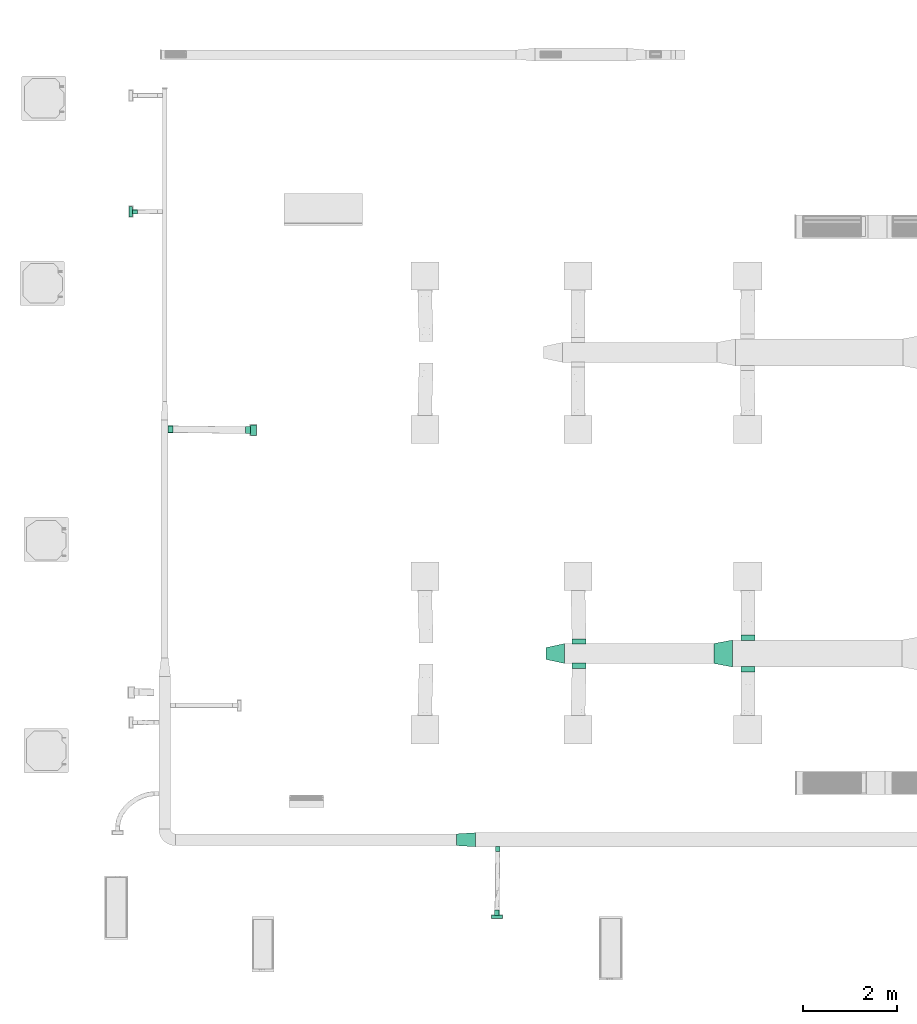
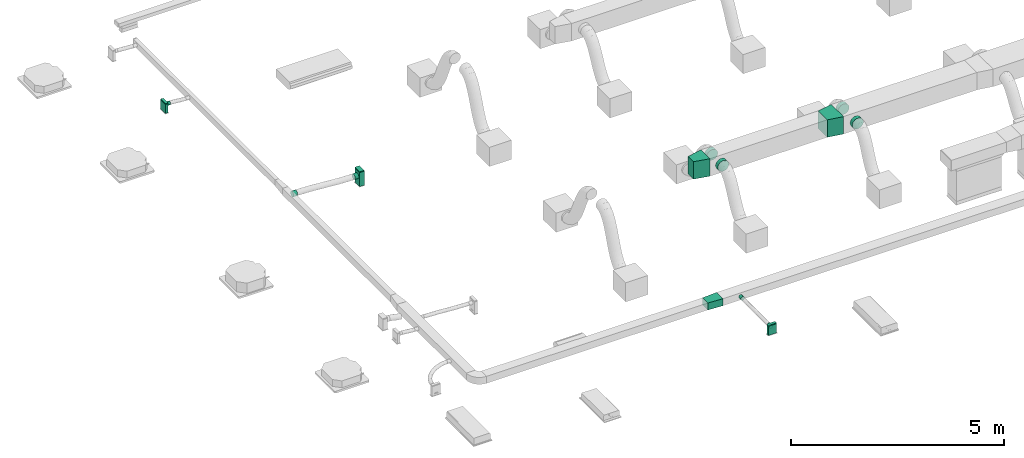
# One storey, part 23 of 60: 15 flow fittings, 3 flow segments.
"""IFC2X3 building model written with IfcOpenShell, lengths in millimetres."""

from ifc_helpers import new_model, entity, si_unit, converted_unit, derived_unit, direction, frame, origin, origin_2d_with_axis, place, context, subcontext, project, spatial, polyline, rectangle, outline, extrude, faceted_brep, source, transform, mapped, material, type_object, type_shapes, element, save


model = new_model("IFC2X3")

# Units and contexts
model_context = context("Model", 3, precision=0.01, world=origin(), true_north=direction((6.123233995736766e-17, 1.0)))
body_context = subcontext(model_context, "Body", "Model", "MODEL_VIEW")
ifc_project = project(units=[si_unit("LENGTHUNIT", "METRE", prefix="MILLI"), converted_unit("PLANEANGLEUNIT", "DEGREE", entity("IfcPlaneAngleMeasure", 0.017453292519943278), si_unit("PLANEANGLEUNIT", "RADIAN"), dimensions=[0, 0, 0, 0, 0, 0, 0]), si_unit("AREAUNIT", "SQUARE_METRE"), derived_unit("THERMALTRANSMITTANCEUNIT", [(si_unit("MASSUNIT", "GRAM", prefix="KILO"), 1), (si_unit("THERMODYNAMICTEMPERATUREUNIT", "KELVIN"), -1), (si_unit("TIMEUNIT", "SECOND"), -3)])], contexts=[model_context])

# Site, building, storey
site_placement = place(None, origin())
site = spatial("IfcSite", under=ifc_project, at=site_placement, Name="Default", CompositionType="ELEMENT")
building_placement = place(site_placement, origin())
building = spatial("IfcBuilding", under=site, at=building_placement, Name="Praça Pedro II, 1301 - Centro (Sul), Teresina - PI, 64001-100", CompositionType="ELEMENT")
storey_placement = place(building_placement, frame((0.0, 0.0, 6040.0)))
storey = spatial("IfcBuildingStorey", under=building, at=storey_placement, Name="2PAV", CompositionType="ELEMENT", Elevation=6040.0)

# Flow fittings
ifc_material = material(Name="<Unnamed>")
duct_fitting_type_1 = type_object("IfcDuctFittingType", Name="M_Encaixe de duto redondo:Padrão", PredefinedType="NOTDEFINED", material=ifc_material)
shared_shape_1 = source(origin(), body_context, "Body", "Brep", [
    faceted_brep([(101.6000000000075, 0.0, -150.0), (101.6000000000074, 38.82285676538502, -144.88887394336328), (101.60000000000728, 75.0, -129.90381056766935), (101.6000000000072, 106.06601717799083, -106.06601717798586), (101.60000000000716, 129.90381056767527, -75.0), (101.6000000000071, 144.8888739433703, -38.82285676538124), (101.60000000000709, 150.0, 0.0), (101.6000000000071, 144.88887394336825, 38.82285676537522), (101.60000000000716, 129.90381056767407, 75.0), (101.6000000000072, 106.06601717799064, 106.0660171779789), (101.60000000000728, 75.0, 129.90381056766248), (101.6000000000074, 38.82285676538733, 144.88887394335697), (101.6000000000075, 0.0, 150.0), (101.6000000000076, -38.82285676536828, 144.88887394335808), (101.6000000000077, -75.0, 129.90381056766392), (101.60000000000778, -106.0660171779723, 106.06601717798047), (101.60000000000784, -129.90381056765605, 75.0), (101.60000000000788, -144.88887394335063, 38.822856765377), (101.6000000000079, -150.0, 0.0), (101.60000000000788, -144.88887394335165, -38.8228567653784), (101.60000000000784, -129.90381056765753, -75.0), (101.60000000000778, -106.0660171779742, -106.06601717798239), (101.6000000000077, -75.0, -129.90381056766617), (101.6000000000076, -38.82285676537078, -144.88887394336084), (0.0, 0.0, 150.0), (-6.095999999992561, 0.0, 150.0), (-6.095999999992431, -38.82285676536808, 144.88887394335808), (0.0, -38.82285676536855, 144.88887394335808), (-6.09599999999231, -75.0, 129.90381056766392), (0.0, -75.0, 129.90381056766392), (-6.095999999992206, -106.06601717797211, 106.06601717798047), (0.0, -106.06601717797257, 106.06601717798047), (0.0, -129.9038105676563, 75.0), (-6.095999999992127, -129.90381056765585, 75.0), (-6.0959999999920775, -144.88887394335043, 38.822856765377), (0.0, -144.88887394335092, 38.82285676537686), (-6.09599999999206, -150.0, 0.0), (0.0, -150.0, 0.0), (-6.0959999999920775, -144.88887394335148, -38.8228567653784), (0.0, -144.88887394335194, -38.8228567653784), (-6.095999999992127, -129.90381056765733, -75.0), (0.0, -129.90381056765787, -75.0), (-6.095999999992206, -106.066017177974, -106.06601717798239), (0.0, -106.06601717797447, -106.06601717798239), (0.0, -75.0, -129.90381056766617), (-6.09599999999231, -75.0, -129.90381056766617), (-6.095999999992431, -38.822856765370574, -144.88887394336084), (0.0, -38.82285676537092, -144.88887394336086), (-6.095999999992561, 0.0, -150.0), (0.0, 0.0, -150.0), (0.0, 75.0, -129.90381056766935), (0.0, 38.82285676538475, -144.88887394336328), (-6.095999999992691, 38.82285676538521, -144.88887394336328), (-6.095999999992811, 75.0, -129.90381056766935), (-6.095999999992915, 106.06601717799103, -106.06601717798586), (0.0, 106.06601717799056, -106.06601717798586), (0.0, 129.903810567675, -75.0), (-6.095999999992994, 129.9038105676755, -75.0), (-6.095999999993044, 144.8888739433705, -38.82285676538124), (0.0, 144.88887394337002, -38.82285676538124), (-6.0959999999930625, 150.0, 0.0), (0.0, 150.0, 0.0), (-6.095999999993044, 144.88887394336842, 38.82285676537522), (0.0, 144.88887394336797, 38.82285676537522), (-6.095999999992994, 129.90381056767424, 75.0), (0.0, 129.9038105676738, 75.0), (-6.095999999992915, 106.06601717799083, 106.0660171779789), (0.0, 106.06601717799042, 106.06601717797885), (0.0, 75.0, 129.90381056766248), (-6.095999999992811, 75.0, 129.90381056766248), (-6.095999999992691, 38.82285676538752, 144.88887394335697), (0.0, 38.82285676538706, 144.88887394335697)], [[[0, 1, 2, 3, 4, 5, 6, 7, 8, 9, 10, 11, 12, 13, 14, 15, 16, 17, 18, 19, 20, 21, 22, 23]], [[13, 12, 24, 25, 26, 27]], [[14, 13, 27, 26, 28, 29]], [[29, 28, 30, 31, 15, 14]], [[17, 16, 32, 33, 34, 35]], [[18, 17, 35, 34, 36, 37]], [[31, 30, 33, 32, 16, 15]], [[19, 18, 37, 36, 38, 39]], [[20, 19, 39, 38, 40, 41]], [[41, 40, 42, 43, 21, 20]], [[23, 22, 44, 45, 46, 47]], [[0, 23, 47, 46, 48, 49]], [[43, 42, 45, 44, 22, 21]], [[50, 2, 1, 51, 52, 53]], [[51, 1, 0, 49, 48, 52]], [[50, 53, 54, 55, 3, 2]], [[5, 4, 56, 57, 58, 59]], [[6, 5, 59, 58, 60, 61]], [[55, 54, 57, 56, 4, 3]], [[7, 6, 61, 60, 62, 63]], [[8, 7, 63, 62, 64, 65]], [[65, 64, 66, 67, 9, 8]], [[11, 10, 68, 69, 70, 71]], [[12, 11, 71, 70, 25, 24]], [[67, 66, 69, 68, 10, 9]], [[46, 45, 42, 40, 38, 36, 34, 33, 30, 28, 26, 25, 70, 69, 66, 64, 62, 60, 58, 57, 54, 53, 52, 48]]]),
])
type_shapes(duct_fitting_type_1, [shared_shape_1])
flow_fitting_1_placement = place(storey_placement, frame((22556.794440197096, -64369.908035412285, 3480.0), z_axis=(0.0, 0.0, -1.0), x_axis=(0.0, 1.0, 0.0)))
element("IfcFlowFitting", 1, at=flow_fitting_1_placement, inside=storey, type_object=duct_fitting_type_1, material=ifc_material, Name="M_Encaixe de duto redondo:Padrão", ObjectType="M_Encaixe de duto redondo:Padrão", context=body_context, shape_type="MappedRepresentation", body=[
    mapped(shared_shape_1, transform((0.0, 0.0, 0.0), scale=1.0)),
])
duct_fitting_type_2 = type_object("IfcDuctFittingType", Name="M_Encaixe de duto redondo:Padrão", PredefinedType="NOTDEFINED", material=ifc_material)
shared_shape_2 = source(origin(), body_context, "Body", "Brep", [
    faceted_brep([(101.6000000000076, 38.82285676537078, -144.88887394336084), (101.6000000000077, 75.0, -129.90381056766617), (101.60000000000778, 106.0660171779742, -106.06601717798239), (101.60000000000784, 129.90381056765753, -75.0), (101.60000000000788, 144.88887394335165, -38.8228567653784), (101.6000000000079, 150.0, 0.0), (101.60000000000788, 144.88887394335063, 38.822856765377), (101.60000000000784, 129.90381056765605, 75.0), (101.60000000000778, 106.0660171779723, 106.06601717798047), (101.6000000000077, 75.0, 129.90381056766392), (101.6000000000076, 38.82285676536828, 144.88887394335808), (101.6000000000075, 0.0, 150.0), (101.6000000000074, -38.82285676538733, 144.88887394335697), (101.60000000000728, -75.0, 129.90381056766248), (101.6000000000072, -106.06601717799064, 106.0660171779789), (101.60000000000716, -129.90381056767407, 75.0), (101.6000000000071, -144.88887394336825, 38.82285676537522), (101.60000000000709, -150.0, 0.0), (101.6000000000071, -144.8888739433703, -38.82285676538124), (101.60000000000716, -129.90381056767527, -75.0), (101.6000000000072, -106.06601717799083, -106.06601717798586), (101.60000000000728, -75.0, -129.90381056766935), (101.6000000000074, -38.82285676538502, -144.88887394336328), (101.6000000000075, 0.0, -150.0), (0.0, 38.82285676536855, 144.88887394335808), (-6.095999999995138, 38.82285676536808, 144.88887394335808), (-6.095999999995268, 0.0, 150.0), (0.0, 0.0, 150.0), (0.0, 75.0, 129.90381056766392), (-6.095999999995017, 75.0, 129.90381056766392), (0.0, 106.06601717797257, 106.06601717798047), (-6.0959999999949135, 106.06601717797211, 106.06601717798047), (0.0, 144.88887394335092, 38.82285676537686), (-6.095999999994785, 144.88887394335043, 38.822856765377), (-6.095999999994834, 129.90381056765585, 75.0), (0.0, 129.9038105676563, 75.0), (0.0, 150.0, 0.0), (-6.095999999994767, 150.0, 0.0), (0.0, 144.88887394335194, -38.8228567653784), (-6.095999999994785, 144.88887394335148, -38.8228567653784), (0.0, 129.90381056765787, -75.0), (-6.095999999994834, 129.90381056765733, -75.0), (0.0, 106.06601717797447, -106.06601717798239), (-6.0959999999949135, 106.066017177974, -106.06601717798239), (0.0, 38.82285676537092, -144.88887394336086), (-6.095999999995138, 38.822856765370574, -144.88887394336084), (-6.095999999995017, 75.0, -129.90381056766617), (0.0, 75.0, -129.90381056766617), (0.0, 0.0, -150.0), (-6.095999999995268, 0.0, -150.0), (0.0, -75.0, -129.90381056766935), (-6.095999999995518, -75.0, -129.90381056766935), (-6.095999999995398, -38.82285676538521, -144.88887394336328), (0.0, -38.82285676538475, -144.88887394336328), (0.0, -106.06601717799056, -106.06601717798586), (-6.095999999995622, -106.06601717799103, -106.06601717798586), (0.0, -144.88887394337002, -38.82285676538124), (-6.095999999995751, -144.8888739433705, -38.82285676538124), (-6.095999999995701, -129.9038105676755, -75.0), (0.0, -129.903810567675, -75.0), (0.0, -150.0, 0.0), (-6.09599999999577, -150.0, 0.0), (0.0, -144.88887394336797, 38.82285676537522), (-6.095999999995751, -144.88887394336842, 38.82285676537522), (0.0, -129.9038105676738, 75.0), (-6.095999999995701, -129.90381056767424, 75.0), (0.0, -106.06601717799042, 106.06601717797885), (-6.095999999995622, -106.06601717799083, 106.0660171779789), (0.0, -38.82285676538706, 144.88887394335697), (-6.095999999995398, -38.82285676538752, 144.88887394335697), (-6.095999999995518, -75.0, 129.90381056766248), (0.0, -75.0, 129.90381056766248)], [[[0, 1, 2, 3, 4, 5, 6, 7, 8, 9, 10, 11, 12, 13, 14, 15, 16, 17, 18, 19, 20, 21, 22, 23]], [[24, 25, 26, 27, 11, 10]], [[28, 29, 25, 24, 10, 9]], [[9, 8, 30, 31, 29, 28]], [[32, 33, 34, 35, 7, 6]], [[36, 37, 33, 32, 6, 5]], [[8, 7, 35, 34, 31, 30]], [[38, 39, 37, 36, 5, 4]], [[40, 41, 39, 38, 4, 3]], [[3, 2, 42, 43, 41, 40]], [[44, 45, 46, 47, 1, 0]], [[48, 49, 45, 44, 0, 23]], [[2, 1, 47, 46, 43, 42]], [[22, 21, 50, 51, 52, 53]], [[23, 22, 53, 52, 49, 48]], [[21, 20, 54, 55, 51, 50]], [[56, 57, 58, 59, 19, 18]], [[60, 61, 57, 56, 18, 17]], [[20, 19, 59, 58, 55, 54]], [[62, 63, 61, 60, 17, 16]], [[64, 65, 63, 62, 16, 15]], [[15, 14, 66, 67, 65, 64]], [[68, 69, 70, 71, 13, 12]], [[27, 26, 69, 68, 12, 11]], [[14, 13, 71, 70, 67, 66]], [[49, 52, 51, 55, 58, 57, 61, 63, 65, 67, 70, 69, 26, 25, 29, 31, 34, 33, 37, 39, 41, 43, 46, 45]]]),
])
type_shapes(duct_fitting_type_2, [shared_shape_2])
for number, where, z_axis, x_axis in (
    (2, (22556.79444019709, -64944.90803541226, 3480.0), (0.0, 0.0, -1.0), (0.0, -1.0, 0.0)),
    (3, (18956.02987905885, -64869.90803541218, 3480.0), (0.0, 0.0, -1.0), (0.0, -1.0, 0.0)),
    (4, (18956.02987905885, -64444.908035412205, 3480.0), (0.0, 0.0, 1.0), (0.0, 1.0, 0.0)),
):
    element("IfcFlowFitting", number, at=place(storey_placement, frame(where, z_axis=z_axis, x_axis=x_axis)), inside=storey, type_object=duct_fitting_type_2, material=ifc_material, Name="M_Encaixe de duto redondo:Padrão", ObjectType="M_Encaixe de duto redondo:Padrão", context=body_context, shape_type="MappedRepresentation", body=[
        mapped(shared_shape_2, transform((0.0, 0.0, 0.0), scale=1.0)),
    ])

# Flow segments
duct_segment_type = type_object("IfcDuctSegmentType", Name="Duto retangular:Raios cotovelos / torneiras", PredefinedType="NOTDEFINED")
flow_segment_1_placement = place(storey_placement, origin())
element("IfcFlowSegment", 5, at=flow_segment_1_placement, inside=storey, type_object=duct_segment_type, Name="Duto retangular:Raios cotovelos / torneiras", ObjectType="Duto retangular:Raios cotovelos / torneiras", context=body_context, shape_type="SweptSolid", body=[
    extrude(rectangle(XDim=75.00000000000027, YDim=225.00000000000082, at=origin_2d_with_axis()), frame((17213.821071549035, -70259.29347420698, 2500.0), z_axis=(0.0, 0.0, 1.0), x_axis=(0.0, -1.0, 0.0)), (0.0, 0.0, 1.0), 260.00000000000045),
])
flow_segment_2_placement = place(storey_placement, origin())
element("IfcFlowSegment", 6, at=flow_segment_2_placement, inside=storey, type_object=duct_segment_type, Name="Duto retangular:Raios cotovelos / torneiras", ObjectType="Duto retangular:Raios cotovelos / torneiras", context=body_context, shape_type="SweptSolid", body=[
    extrude(rectangle(XDim=75.00000000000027, YDim=225.00000000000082, at=origin_2d_with_axis()), frame((9424.753908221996, -55253.24976504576, 2500.0), z_axis=(0.0, 0.0, 1.0), x_axis=(-1.0, 0.0, 0.0)), (0.0, 0.0, 1.0), 260.00000000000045),
])
flow_segment_3_placement = place(storey_placement, origin())
element("IfcFlowSegment", 7, at=flow_segment_3_placement, inside=storey, type_object=duct_segment_type, Name="Duto retangular:Raios cotovelos / torneiras", ObjectType="Duto retangular:Raios cotovelos / torneiras", context=body_context, shape_type="SweptSolid", body=[
    extrude(rectangle(XDim=125.0000000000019, YDim=225.00000000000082, at=origin_2d_with_axis()), frame((12029.240022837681, -59903.036805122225, 2325.0), z_axis=(0.0, 0.0, 1.0), x_axis=(-1.0, 0.0, 0.0)), (0.0, 0.0, 1.0), 400.0),
])

# Flow fittings
duct_fitting_type_3 = type_object("IfcDuctFittingType", Name="M_Rectangular Transition - L:400 mm (L)", PredefinedType="NOTDEFINED", material=ifc_material)
shared_shape_3 = source(origin(), body_context, "Body", "SweptSolid", [
    extrude(outline(polyline([(-157.41312368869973, -245.71804673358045), (249.55739121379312, -245.71804673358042), (143.59148355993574, 319.4334607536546), (-235.73575108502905, 172.00263271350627), (-157.41312368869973, -245.71804673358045)])), frame((200.0, 0.0, -250.0), z_axis=(0.0, 0.0, 1.0), x_axis=(0.9828721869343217, -0.18428853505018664, 0.0)), (0.0, 0.0, 1.0), 500.00000000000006),
])
type_shapes(duct_fitting_type_3, [shared_shape_3])
flow_fitting_2_placement = place(storey_placement, frame((21828.853912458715, -64657.40803541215, 3480.0)))
element("IfcFlowFitting", 8, at=flow_fitting_2_placement, inside=storey, type_object=duct_fitting_type_3, material=ifc_material, Name="M_Rectangular Transition - L:400 mm (L)", ObjectType="M_Rectangular Transition - L:400 mm (L)", context=body_context, shape_type="MappedRepresentation", body=[
    mapped(shared_shape_3, transform((0.0, 0.0, 0.0), scale=1.0)),
])
duct_fitting_type_4 = type_object("IfcDuctFittingType", Name="M_Rectangular Transition - L:400 mm (L)", PredefinedType="NOTDEFINED", material=ifc_material)
shared_shape_4 = source(origin(), body_context, "Body", "SweptSolid", [
    extrude(outline(polyline([(-240.79059022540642, -164.85187793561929), (168.6678936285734, -164.85187793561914), (222.0921133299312, 79.37312641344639), (-149.96941673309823, 250.3306294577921), (-240.79059022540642, -164.85187793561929)])), frame((200.0, 0.0, -250.0), z_axis=(0.0, 0.0, 1.0), x_axis=(0.976900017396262, 0.21369687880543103, 0.0)), (0.0, 0.0, 1.0), 500.00000000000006),
])
type_shapes(duct_fitting_type_4, [shared_shape_4])
flow_fitting_3_placement = place(storey_placement, frame((18652.884950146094, -64657.40803541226, 3480.0), z_axis=(0.0, 0.0, 1.0), x_axis=(-1.0, 0.0, 0.0)))
element("IfcFlowFitting", 9, at=flow_fitting_3_placement, inside=storey, type_object=duct_fitting_type_4, material=ifc_material, Name="M_Rectangular Transition - L:400 mm (L)", ObjectType="M_Rectangular Transition - L:400 mm (L)", context=body_context, shape_type="MappedRepresentation", body=[
    mapped(shared_shape_4, transform((0.0, 0.0, 0.0), scale=1.0)),
])
duct_fitting_type_5 = type_object("IfcDuctFittingType", Name="M_Tampa retangular:Padrão", PredefinedType="NOTDEFINED", material=ifc_material)
shared_shape_5 = source(origin(), body_context, "Body", "SweptSolid", [
    extrude(rectangle(XDim=24.999999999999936, YDim=225.00000000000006, at=origin_2d_with_axis()), frame((12.500000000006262, 0.0, -37.50000000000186)), (0.0, 0.0, 1.0), 75.0),
])
type_shapes(duct_fitting_type_5, [shared_shape_5])
for number, where, z_axis, x_axis in (
    (10, (17213.821071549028, -70259.29347420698, 2760.0), (0.0, -1.0, 0.0), (0.0, 0.0, 1.0)),
    (11, (9424.753908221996, -55253.24976504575, 2760.0), (-1.0, 0.0, 0.0), (0.0, 0.0, 1.0)),
):
    element("IfcFlowFitting", number, at=place(storey_placement, frame(where, z_axis=z_axis, x_axis=x_axis)), inside=storey, type_object=duct_fitting_type_5, material=ifc_material, Name="M_Tampa retangular:Padrão", ObjectType="M_Tampa retangular:Padrão", context=body_context, shape_type="MappedRepresentation", body=[
        mapped(shared_shape_5, transform((0.0, 0.0, 0.0), scale=1.0)),
    ])
duct_fitting_type_6 = type_object("IfcDuctFittingType", Name="M_Encaixe de duto redondo:Padrão", PredefinedType="NOTDEFINED", material=ifc_material)
shared_shape_6 = source(origin(), body_context, "Body", "Brep", [
    faceted_brep([(101.60000000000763, 50.0, 0.0), (101.60000000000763, 48.296291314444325, 12.940952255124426), (101.60000000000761, 43.301270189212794, 25.0), (101.6000000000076, 35.35533905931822, 35.35533905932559), (101.60000000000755, 25.0, 43.30127018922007), (101.60000000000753, 12.94095225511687, 48.29629131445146), (101.6000000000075, 0.0, 50.0), (101.60000000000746, -12.940952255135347, 48.29629131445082), (101.60000000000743, -25.0, 43.30127018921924), (101.6000000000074, -35.35533905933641, 35.355339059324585), (101.60000000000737, -43.301270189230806, 25.0), (101.60000000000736, -48.296291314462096, 12.940952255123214), (101.60000000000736, -50.0, 0.0), (101.60000000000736, -48.29629131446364, -12.94095225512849), (101.60000000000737, -43.301270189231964, -25.0), (101.6000000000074, -35.35533905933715, -35.35533905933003), (101.60000000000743, -25.0, -43.30127018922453), (101.60000000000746, -12.94095225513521, -48.29629131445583), (101.6000000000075, 0.0, -50.0), (101.60000000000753, 12.9409522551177, -48.29629131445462), (101.60000000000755, 25.0, -43.30127018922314), (101.6000000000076, 35.35533905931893, -35.35533905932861), (101.60000000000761, 43.30127018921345, -25.0), (101.60000000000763, 48.2962913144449, -12.940952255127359), (0.0, 12.940952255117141, 48.29629131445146), (-6.0959999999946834, 12.94095225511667, 48.29629131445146), (-6.095999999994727, 0.0, 50.0), (0.0, 0.0, 50.0), (0.0, 25.0, 43.30127018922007), (-6.0959999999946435, 25.0, 43.30127018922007), (0.0, 35.35533905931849, 35.35533905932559), (-6.095999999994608, 35.35533905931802, 35.35533905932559), (0.0, 48.296291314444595, 12.940952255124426), (-6.095999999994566, 48.296291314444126, 12.940952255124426), (-6.095999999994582, 43.3012701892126, 25.0), (0.0, 43.301270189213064, 25.0), (0.0, 50.0, 0.0), (-6.09599999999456, 50.0, 0.0), (0.0, 43.30127018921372, -25.0), (-6.095999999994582, 43.30127018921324, -25.0), (-6.095999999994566, 48.296291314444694, -12.940952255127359), (0.0, 48.29629131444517, -12.940952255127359), (0.0, 35.3553390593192, -35.35533905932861), (-6.095999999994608, 35.35533905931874, -35.35533905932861), (0.0, 12.940952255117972, -48.29629131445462), (-6.0959999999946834, 12.940952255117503, -48.29629131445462), (-6.0959999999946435, 25.0, -43.30127018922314), (0.0, 25.0, -43.30127018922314), (0.0, 0.0, -50.0), (-6.095999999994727, 0.0, -50.0), (0.0, -12.940952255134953, -48.29629131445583), (-6.09599999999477, -12.940952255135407, -48.29629131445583), (0.0, -25.0, -43.30127018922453), (-6.0959999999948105, -25.0, -43.30127018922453), (0.0, -35.35533905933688, -35.35533905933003), (-6.095999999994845, -35.355339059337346, -35.35533905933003), (0.0, -48.29629131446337, -12.94095225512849), (-6.095999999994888, -48.29629131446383, -12.94095225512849), (-6.095999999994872, -43.30127018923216, -25.0), (0.0, -43.301270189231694, -25.0), (0.0, -50.0, 0.0), (-6.095999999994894, -50.0, 0.0), (0.0, -48.296291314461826, 12.940952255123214), (-6.095999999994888, -48.296291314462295, 12.940952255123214), (0.0, -43.30127018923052, 25.0), (-6.095999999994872, -43.301270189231, 25.0), (0.0, -35.35533905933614, 35.355339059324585), (-6.095999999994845, -35.35533905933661, 35.355339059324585), (0.0, -12.940952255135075, 48.29629131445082), (-6.09599999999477, -12.940952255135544, 48.29629131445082), (-6.0959999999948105, -25.0, 43.30127018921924), (0.0, -25.0, 43.30127018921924)], [[[0, 1, 2, 3, 4, 5, 6, 7, 8, 9, 10, 11, 12, 13, 14, 15, 16, 17, 18, 19, 20, 21, 22, 23]], [[24, 25, 26, 27, 6, 5]], [[28, 29, 25, 24, 5, 4]], [[4, 3, 30, 31, 29, 28]], [[32, 33, 34, 35, 2, 1]], [[36, 37, 33, 32, 1, 0]], [[3, 2, 35, 34, 31, 30]], [[23, 22, 38, 39, 40, 41]], [[0, 23, 41, 40, 37, 36]], [[22, 21, 42, 43, 39, 38]], [[44, 45, 46, 47, 20, 19]], [[48, 49, 45, 44, 19, 18]], [[21, 20, 47, 46, 43, 42]], [[50, 51, 49, 48, 18, 17]], [[52, 53, 51, 50, 17, 16]], [[16, 15, 54, 55, 53, 52]], [[56, 57, 58, 59, 14, 13]], [[60, 61, 57, 56, 13, 12]], [[15, 14, 59, 58, 55, 54]], [[62, 63, 61, 60, 12, 11]], [[64, 65, 63, 62, 11, 10]], [[10, 9, 66, 67, 65, 64]], [[68, 69, 70, 71, 8, 7]], [[27, 26, 69, 68, 7, 6]], [[9, 8, 71, 70, 67, 66]], [[49, 51, 53, 55, 58, 57, 61, 63, 65, 67, 70, 69, 26, 25, 29, 31, 34, 33, 37, 40, 39, 43, 46, 45]]]),
])
type_shapes(duct_fitting_type_6, [shared_shape_6])
for number, where, z_axis, x_axis in (
    (12, (17213.821071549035, -70221.79347392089, 2671.6945894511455), (1.0, 0.0, 0.0), (0.0, 1.0, 0.0)),
    (13, (9462.25390822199, -55258.27309956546, 2685.100036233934), (0.0, -1.0, 0.0), (1.0, 0.0, 0.0)),
    (14, (17230.406643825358, -68770.24419274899, 2650.0), (0.0, 0.0, -1.0), (0.0, -1.0, 0.0)),
):
    element("IfcFlowFitting", number, at=place(storey_placement, frame(where, z_axis=z_axis, x_axis=x_axis)), inside=storey, type_object=duct_fitting_type_6, material=ifc_material, Name="M_Encaixe de duto redondo:Padrão", ObjectType="M_Encaixe de duto redondo:Padrão", context=body_context, shape_type="MappedRepresentation", body=[
        mapped(shared_shape_6, transform((0.0, 0.0, 0.0), scale=1.0)),
    ])
duct_fitting_type_7 = type_object("IfcDuctFittingType", Name="M_Tampa retangular:Padrão", PredefinedType="NOTDEFINED", material=ifc_material)
shared_shape_7 = source(origin(), body_context, "Body", "SweptSolid", [
    extrude(rectangle(XDim=24.999999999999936, YDim=225.00000000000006, at=origin_2d_with_axis()), frame((12.500000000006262, 0.0, -62.500000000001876)), (0.0, 0.0, 1.0), 125.00000000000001),
])
type_shapes(duct_fitting_type_7, [shared_shape_7])
flow_fitting_4_placement = place(storey_placement, frame((12029.240022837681, -59903.03680512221, 2725.0), z_axis=(-1.0, 0.0, 0.0), x_axis=(0.0, 0.0, 1.0)))
element("IfcFlowFitting", 15, at=flow_fitting_4_placement, inside=storey, type_object=duct_fitting_type_7, material=ifc_material, Name="M_Tampa retangular:Padrão", ObjectType="M_Tampa retangular:Padrão", context=body_context, shape_type="MappedRepresentation", body=[
    mapped(shared_shape_7, transform((0.0, 0.0, 0.0), scale=1.0)),
])
duct_fitting_type_8 = type_object("IfcDuctFittingType", Name="M_Encaixe de duto redondo:Padrão", PredefinedType="NOTDEFINED", material=ifc_material)
shared_shape_8 = source(origin(), body_context, "Body", "Brep", [
    faceted_brep([(101.60000000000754, 19.411428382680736, -72.44443697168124), (101.6000000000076, 37.499999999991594, -64.95190528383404), (101.60000000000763, 53.03300858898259, -53.03300858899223), (101.60000000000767, 64.95190528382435, -37.500000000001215), (101.60000000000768, 72.44443697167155, -19.411428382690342), (101.6000000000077, 75.0, 0.0), (101.60000000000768, 72.44443697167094, 19.411428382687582), (101.60000000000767, 64.95190528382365, 37.49999999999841), (101.60000000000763, 53.033008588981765, 53.03300858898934), (101.6000000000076, 37.49999999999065, 64.95190528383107), (101.60000000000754, 19.411428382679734, 72.44443697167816), (101.6000000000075, 0.0, 75.0), (101.60000000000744, -19.4114283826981, 72.44443697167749), (101.6000000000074, -37.500000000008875, 64.95190528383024), (101.60000000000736, -53.03300858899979, 53.03300858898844), (101.60000000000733, -64.95190528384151, 37.49999999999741), (101.60000000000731, -72.4444369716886, 19.41142838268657), (101.60000000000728, -75.0, 0.0), (101.60000000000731, -72.4444369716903, -19.411428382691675), (101.60000000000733, -64.95190528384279, -37.500000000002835), (101.60000000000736, -53.033008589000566, -53.03300858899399), (101.6000000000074, -37.50000000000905, -64.95190528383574), (101.60000000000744, -19.41142838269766, -72.44443697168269), (101.6000000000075, 0.0, -75.0), (0.0, 19.411428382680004, 72.44443697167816), (-6.095999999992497, 19.411428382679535, 72.44443697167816), (-6.095999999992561, 0.0, 75.0), (0.0, 0.0, 75.0), (0.0, 37.49999999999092, 64.95190528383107), (-6.095999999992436, 37.49999999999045, 64.95190528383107), (0.0, 53.03300858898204, 53.03300858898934), (-6.095999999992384, 53.03300858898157, 53.03300858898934), (0.0, 72.44443697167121, 19.411428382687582), (-6.095999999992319, 72.44443697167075, 19.411428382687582), (-6.095999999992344, 64.95190528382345, 37.49999999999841), (0.0, 64.95190528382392, 37.49999999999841), (0.0, 75.0, 0.0), (-6.09599999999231, 75.0, 0.0), (0.0, 64.95190528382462, -37.500000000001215), (-6.095999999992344, 64.95190528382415, -37.500000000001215), (-6.095999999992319, 72.44443697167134, -19.411428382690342), (0.0, 72.44443697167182, -19.411428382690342), (0.0, 53.03300858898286, -53.03300858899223), (-6.095999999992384, 53.03300858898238, -53.03300858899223), (0.0, 19.411428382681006, -72.44443697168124), (-6.095999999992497, 19.41142838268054, -72.44443697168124), (-6.095999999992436, 37.4999999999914, -64.95190528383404), (0.0, 37.49999999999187, -64.95190528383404), (0.0, 0.0, -75.0), (-6.095999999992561, 0.0, -75.0), (0.0, -19.41142838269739, -72.44443697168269), (-6.0959999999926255, -19.41142838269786, -72.44443697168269), (0.0, -37.50000000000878, -64.95190528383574), (-6.095999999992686, -37.50000000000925, -64.95190528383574), (0.0, -53.033008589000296, -53.03300858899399), (-6.0959999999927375, -53.03300858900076, -53.03300858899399), (0.0, -72.44443697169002, -19.411428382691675), (-6.095999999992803, -72.4444369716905, -19.411428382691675), (-6.095999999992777, -64.95190528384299, -37.500000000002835), (0.0, -64.95190528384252, -37.500000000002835), (0.0, -75.0, 0.0), (-6.095999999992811, -75.0, 0.0), (0.0, -72.44443697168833, 19.41142838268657), (-6.095999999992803, -72.44443697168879, 19.41142838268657), (0.0, -64.95190528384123, 37.49999999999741), (-6.095999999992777, -64.9519052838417, 37.49999999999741), (0.0, -53.033008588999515, 53.03300858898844), (-6.0959999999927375, -53.033008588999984, 53.03300858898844), (0.0, -19.41142838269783, 72.44443697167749), (-6.0959999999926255, -19.4114283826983, 72.44443697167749), (-6.095999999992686, -37.500000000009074, 64.95190528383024), (0.0, -37.500000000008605, 64.95190528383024)], [[[0, 1, 2, 3, 4, 5, 6, 7, 8, 9, 10, 11, 12, 13, 14, 15, 16, 17, 18, 19, 20, 21, 22, 23]], [[24, 25, 26, 27, 11, 10]], [[28, 29, 25, 24, 10, 9]], [[9, 8, 30, 31, 29, 28]], [[32, 33, 34, 35, 7, 6]], [[36, 37, 33, 32, 6, 5]], [[8, 7, 35, 34, 31, 30]], [[4, 3, 38, 39, 40, 41]], [[5, 4, 41, 40, 37, 36]], [[42, 43, 39, 38, 3, 2]], [[44, 45, 46, 47, 1, 0]], [[48, 49, 45, 44, 0, 23]], [[2, 1, 47, 46, 43, 42]], [[50, 51, 49, 48, 23, 22]], [[52, 53, 51, 50, 22, 21]], [[21, 20, 54, 55, 53, 52]], [[56, 57, 58, 59, 19, 18]], [[60, 61, 57, 56, 18, 17]], [[20, 19, 59, 58, 55, 54]], [[62, 63, 61, 60, 17, 16]], [[64, 65, 63, 62, 16, 15]], [[15, 14, 66, 67, 65, 64]], [[68, 69, 70, 71, 13, 12]], [[27, 26, 69, 68, 12, 11]], [[14, 13, 71, 70, 67, 66]], [[49, 51, 53, 55, 58, 57, 61, 63, 65, 67, 70, 69, 26, 25, 29, 31, 34, 33, 37, 40, 39, 43, 46, 45]]]),
])
type_shapes(duct_fitting_type_8, [shared_shape_8])
for number, where, z_axis, x_axis in (
    (16, (11966.740022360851, -59903.036805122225, 2578.7673717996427), (0.0, 1.0, 0.0), (-1.0, 0.0, 0.0)),
    (17, (10217.511122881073, -59884.02936497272, 2650.0), (0.0, 0.0, -1.0), (1.0, 0.0, 0.0)),
):
    element("IfcFlowFitting", number, at=place(storey_placement, frame(where, z_axis=z_axis, x_axis=x_axis)), inside=storey, type_object=duct_fitting_type_8, material=ifc_material, Name="M_Encaixe de duto redondo:Padrão", ObjectType="M_Encaixe de duto redondo:Padrão", context=body_context, shape_type="MappedRepresentation", body=[
        mapped(shared_shape_8, transform((0.0, 0.0, 0.0), scale=1.0)),
    ])
duct_fitting_type_9 = type_object("IfcDuctFittingType", Name="M_Rectangular Transition - L:400 mm (L)", PredefinedType="NOTDEFINED", material=ifc_material)
shared_shape_9 = source(origin(), body_context, "Body", "SweptSolid", [
    extrude(outline(polyline([(-191.81322992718, -137.23222954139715), (208.9672586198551, -137.23222954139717), (190.25377277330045, 162.1835440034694), (-207.40780146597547, 112.280915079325), (-191.81322992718, -137.23222954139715)])), frame((200.0, 0.0, -100.0), z_axis=(0.0, 0.0, 1.0), x_axis=(0.9980525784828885, -0.062378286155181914, 0.0)), (0.0, 0.0, 1.0), 200.0),
])
type_shapes(duct_fitting_type_9, [shared_shape_9])
flow_fitting_5_placement = place(storey_placement, frame((16355.011122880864, -68620.24419274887, 2650.0)))
element("IfcFlowFitting", 18, at=flow_fitting_5_placement, inside=storey, type_object=duct_fitting_type_9, material=ifc_material, Name="M_Rectangular Transition - L:400 mm (L)", ObjectType="M_Rectangular Transition - L:400 mm (L)", context=body_context, shape_type="MappedRepresentation", body=[
    mapped(shared_shape_9, transform((0.0, 0.0, 0.0), scale=1.0)),
])

save(model, "model.ifc")
